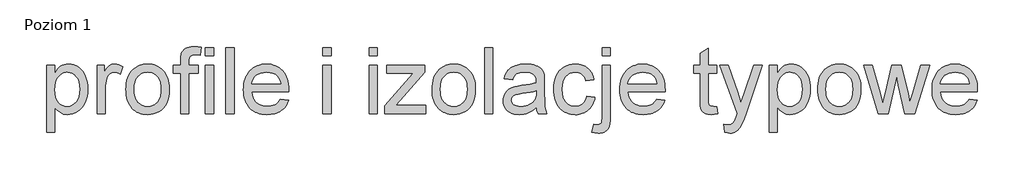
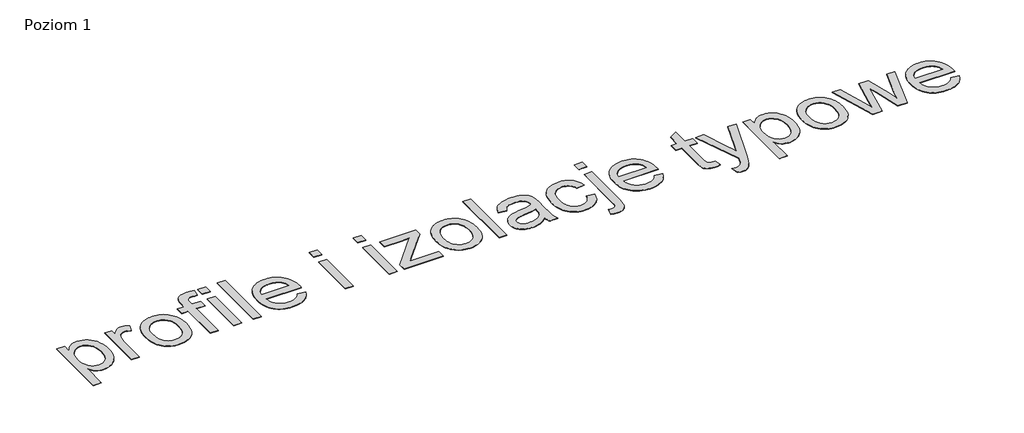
# One storey, part 3 of 4: 1 proxy.
"""IFC4 building model written with IfcOpenShell, lengths in millimetres."""

from ifc_helpers import new_model, si_unit, origin, origin_with_axes, place, context, project, spatial, polyline, outline, extrude, element, save

model = new_model("IFC4")

# Units and contexts
model_context = context("Model", 3, world=origin())
ifc_project = project(units=[si_unit("LENGTHUNIT", "METRE", prefix="MILLI")], contexts=[model_context])

# Site, building, storey
site = spatial("IfcSite", under=ifc_project)
building = spatial("IfcBuilding", under=site)
storey = spatial("IfcBuildingStorey", under=building, Name="Poziom 1", Elevation=0.0)

# Proxy
placement = place(None, origin())
element("IfcBuildingElementProxy", 1, Name="1500 mm Arial", ObjectType="1500 mm Arial", at=placement, inside=storey, context=model_context, shape_type="SweptSolid", body=[
    extrude(outline(polyline([(-77752.6624044, -39191.6927147), (-77752.6624044, -37692.8121176), (-77568.1847925, -37692.8121176), (-77568.1847925, -37873.6866512), (-77538.9998578, -37825.8895649), (-77508.0133839, -37784.4654234), (-77475.2253709, -37749.4142267), (-77440.6358186, -37720.7359749), (-77403.2538807, -37698.430668), (-77362.0887104, -37682.4983058), (-77317.1403079, -37672.9388886), (-77268.4086731, -37669.7524162), (-77204.0712052, -37674.2112256), (-77143.6520849, -37687.587654), (-77087.1513124, -37709.8817014), (-77034.5688876, -37741.0933676), (-76987.0532918, -37780.4119602), (-76945.7530061, -37827.0267865), (-76910.6680306, -37880.9378464), (-76881.7983653, -37942.14514), (-76859.2566063, -38008.554378), (-76843.1553499, -38078.0712711), (-76833.494596, -38150.6958193), (-76830.2743447, -38226.4280225), (-76833.911202, -38307.395949), (-76844.8217736, -38384.1978161), (-76863.0060597, -38456.8336239), (-76888.4640602, -38525.3033723), (-76920.846727, -38587.8167818), (-76959.8050117, -38642.5835729), (-77005.3389145, -38689.6037454), (-77057.4484352, -38728.8772996), (-77113.5776403, -38759.8525138), (-77171.1705959, -38781.9776669), (-77230.2273021, -38795.2527587), (-77290.7477589, -38799.6777893), (-77334.288709, -38796.7165093), (-77375.5552158, -38787.8326692), (-77414.5472794, -38773.0262691), (-77451.2648998, -38752.2973089), (-77485.2576922, -38727.0419815), (-77516.0752717, -38698.6564798), (-77543.7176385, -38667.1408038), (-77568.1847925, -38632.4949535), (-77568.1847925, -39191.6927147), (-77752.6624044, -39191.6927147)]), holes=[polyline([(-77568.1847925, -38243.3624908), (-77563.1967809, -38332.2684493), (-77548.2327461, -38408.7437874), (-77537.00972, -38442.3199739), (-77523.2926881, -38472.7885052), (-77507.0816504, -38500.1493815), (-77488.3766069, -38524.4026027), (-77446.3444459, -38564.1265416), (-77400.0561486, -38592.5007837), (-77349.511715, -38609.5253289), (-77294.7111451, -38615.2001773), (-77239.1224018, -38609.3226558), (-77187.6546794, -38591.6900911), (-77140.3079778, -38562.3024832), (-77097.0822972, -38521.1598322), (-77077.7861236, -38496.0339905), (-77061.0627732, -38467.6766378), (-77046.9122459, -38436.0877743), (-77035.3345418, -38401.2673998), (-77019.897603, -38321.9321182), (-77014.7519567, -38229.670793), (-77019.7737471, -38141.5304887), (-77034.8391185, -38065.190266), (-77046.1381471, -38031.4451852), (-77059.9480708, -38000.6501249), (-77076.2688898, -37972.8050849), (-77095.1006041, -37947.9100654), (-77137.2341016, -37906.9250491), (-77183.2859469, -37877.6500374), (-77233.2561399, -37860.0850304), (-77287.1446806, -37854.2300281), (-77314.4014054, -37855.7866705), (-77340.864327, -37860.4565979), (-77366.5334454, -37868.2398101), (-77391.4087606, -37879.1363072), (-77438.7779813, -37910.2691562), (-77482.9719893, -37953.8551447), (-77502.9437401, -37980.1716912), (-77520.2525907, -38009.3087726), (-77534.8985413, -38041.2663887), (-77546.8815917, -38076.0445395), (-77562.8589923, -38154.0624456), (-77568.1847925, -38243.3624908)])]), origin_with_axes(), (0.0, 0.0, 1.0), 10.0),
    extrude(outline(polyline([(-76622.7370313, -38776.6180878), (-76622.7370313, -37692.8121176), (-76461.3191209, -37692.8121176), (-76461.3191209, -37853.1491046), (-76430.9181472, -37801.8953149), (-76401.688174, -37760.1896829), (-76373.6292013, -37728.0322086), (-76346.7412291, -37705.4228919), (-76319.8082183, -37689.8170588), (-76291.6141302, -37678.6700351), (-76262.1589646, -37671.9818209), (-76231.4427216, -37669.7524162), (-76185.6836265, -37673.310456), (-76139.5642235, -37683.9845757), (-76093.0845126, -37701.7747751), (-76046.244494, -37726.6810542), (-76107.8571339, -37892.0623509), (-76140.2848391, -37875.5107096), (-76172.7125444, -37863.6881088), (-76205.1402496, -37856.5945483), (-76237.5679548, -37854.2300281), (-76265.8408603, -37856.5044713), (-76292.6500152, -37863.3278009), (-76317.9954195, -37874.700017), (-76341.8770733, -37890.6211195), (-76363.3942069, -37910.5731659), (-76381.6460507, -37934.0382137), (-76396.6326047, -37961.0162629), (-76408.353869, -37991.5073135), (-76421.4375473, -38041.8603336), (-76430.7830318, -38094.5553546), (-76436.3903225, -38149.5923765), (-76438.2594194, -38206.9713994), (-76438.2594194, -38776.6180878), (-76622.7370313, -38776.6180878)])), origin_with_axes(), (0.0, 0.0, 1.0), 10.0),
    extrude(outline(polyline([(-75977.0653895, -38234.7151027), (-75974.5713837, -38162.107444), (-75967.0893663, -38094.3526814), (-75954.6193373, -38031.450815), (-75937.1612967, -37973.4018448), (-75914.7152445, -37920.2057707), (-75887.2811807, -37871.8625928), (-75854.8591053, -37828.3723111), (-75817.4490182, -37789.7349255), (-75783.2085142, -37761.6140249), (-75747.1439518, -37737.2425777), (-75709.2553309, -37716.6205839), (-75669.5426516, -37699.7480435), (-75628.0059139, -37686.6249565), (-75584.6451178, -37677.251323), (-75539.4602633, -37671.6271429), (-75492.4513503, -37669.7524162), (-75440.3446445, -37672.0353041), (-75390.6756463, -37678.8839679), (-75343.4443559, -37690.2984075), (-75298.6507731, -37706.278623), (-75256.2948981, -37726.8246144), (-75216.3767308, -37751.9363816), (-75178.8962711, -37781.6139247), (-75143.8535192, -37815.8572436), (-75112.1436147, -37854.1258766), (-75084.6616975, -37895.879362), (-75061.4077676, -37941.1176997), (-75042.3818249, -37989.8408898), (-75027.5838695, -38042.0489322), (-75017.0139014, -38097.741827), (-75010.6719205, -38156.9195741), (-75008.5579268, -38219.5821736), (-75012.2961206, -38318.3290399), (-75023.510702, -38405.9514017), (-75042.201671, -38482.4492591), (-75068.3690276, -38547.8226121), (-75101.6862428, -38604.2896057), (-75141.8267876, -38654.0683851), (-75188.7906621, -38697.1589504), (-75242.5778662, -38733.5613014), (-75301.0941107, -38762.4872649), (-75362.2451062, -38783.1486673), (-75426.0308527, -38795.5455088), (-75492.4513503, -38799.6777893), (-75545.3800084, -38797.4033461), (-75595.7133242, -38790.5800164), (-75643.4512975, -38779.2078004), (-75688.5939285, -38763.2866979), (-75731.141217, -38742.8167089), (-75771.0931632, -38717.7978336), (-75808.4497671, -38688.2300718), (-75843.2110285, -38654.1134236), (-75874.5831444, -38615.7181199), (-75901.7723114, -38573.3143914), (-75924.7785297, -38526.9022383), (-75943.6017993, -38476.4816606), (-75958.24212, -38422.0526581), (-75968.699492, -38363.615231), (-75974.9739151, -38301.1693792), (-75977.0653895, -38234.7151027)]), holes=[polyline([(-75792.5877776, -38234.3547949), (-75787.2507178, -38323.834994), (-75780.579393, -38364.0740605), (-75771.2395383, -38401.3124383), (-75759.2311537, -38435.5501274), (-75744.5542392, -38466.7871279), (-75727.2087948, -38495.0234396), (-75707.1948205, -38520.2590626), (-75661.7509947, -38561.7958003), (-75636.9685714, -38578.1138044), (-75610.8124744, -38591.4648987), (-75583.2827038, -38601.8490831), (-75554.3792596, -38609.2663577), (-75492.4513503, -38615.2001773), (-75430.8387104, -38609.2325788), (-75402.059122, -38601.7730807), (-75374.630688, -38591.3297832), (-75348.5534084, -38577.9026865), (-75323.8272832, -38561.4917906), (-75278.4284959, -38519.7186009), (-75258.4145215, -38494.2831196), (-75241.0690771, -38465.717464), (-75226.3921626, -38434.021634), (-75214.383778, -38399.1956298), (-75205.0439234, -38361.2394512), (-75198.3725986, -38320.1530983), (-75193.0355388, -38228.5898695), (-75198.4063774, -38141.9470946), (-75205.1199258, -38102.8227305), (-75214.5188935, -38066.4963819), (-75226.6032805, -38032.9680488), (-75241.3730869, -38002.2377313), (-75258.8283126, -37974.3054293), (-75278.9689576, -37949.1711428), (-75324.5366392, -37907.6344051), (-75349.2712092, -37891.316401), (-75375.3062652, -37877.9653068), (-75402.6418074, -37867.5811224), (-75431.2778356, -37860.1638478), (-75492.4513503, -37854.2300281), (-75554.3792596, -37860.1413285), (-75583.2827038, -37867.5304541), (-75610.8124744, -37877.8752298), (-75636.9685714, -37891.1756558), (-75661.7509947, -37907.431732), (-75707.1948205, -37948.810835), (-75727.2087948, -37973.9620109), (-75744.5542392, -38002.1251351), (-75759.2311537, -38033.3002076), (-75771.2395383, -38067.4872284), (-75780.579393, -38104.6861976), (-75787.2507178, -38144.897115), (-75792.5877776, -38234.3547949)])]), origin_with_axes(), (0.0, 0.0, 1.0), 10.0),
    extrude(outline(polyline([(-74754.9012104, -38776.6180878), (-74754.9012104, -37877.2897296), (-74916.3191209, -37877.2897296), (-74916.3191209, -37692.8121176), (-74754.9012104, -37692.8121176), (-74754.9012104, -37583.6388434), (-74750.0370546, -37493.2916536), (-74743.9568599, -37458.1841588), (-74735.4445873, -37429.7873975), (-74719.4108886, -37397.517327), (-74698.3328802, -37368.4449884), (-74672.2105621, -37342.570382), (-74641.0439343, -37319.8935076), (-74604.1574196, -37301.4502502), (-74560.8754408, -37288.276495), (-74511.197998, -37280.3722418), (-74455.125091, -37277.7374908), (-74375.0466745, -37282.7818005), (-74286.8613317, -37297.9147296), (-74313.8844194, -37470.8624908), (-74368.5611335, -37464.3769497), (-74420.1752309, -37462.2151027), (-74458.2440057, -37464.1292381), (-74490.3001435, -37469.8716442), (-74516.3436442, -37479.4423211), (-74536.374508, -37492.8412688), (-74551.2709851, -37511.46468), (-74561.9113258, -37536.7087478), (-74568.2955303, -37568.573472), (-74570.4235985, -37607.0588527), (-74570.4235985, -37692.8121176), (-74362.886285, -37692.8121176), (-74362.886285, -37877.2897296), (-74570.4235985, -37877.2897296), (-74570.4235985, -38776.6180878), (-74754.9012104, -38776.6180878)])), origin_with_axes(), (0.0, 0.0, 1.0), 10.0),
    extrude(outline(polyline([(-74201.4683746, -37485.2748042), (-74201.4683746, -37300.7971923), (-74016.9907626, -37300.7971923), (-74016.9907626, -37485.2748042), (-74201.4683746, -37485.2748042)])), origin_with_axes(), (0.0, 0.0, 1.0), 10.0),
    extrude(outline(polyline([(-74201.4683746, -38776.6180878), (-74201.4683746, -37692.8121176), (-74016.9907626, -37692.8121176), (-74016.9907626, -38776.6180878), (-74201.4683746, -38776.6180878)])), origin_with_axes(), (0.0, 0.0, 1.0), 10.0),
    extrude(outline(polyline([(-73740.2743447, -38776.6180878), (-73740.2743447, -37300.7971923), (-73555.7967328, -37300.7971923), (-73555.7967328, -38776.6180878), (-73740.2743447, -38776.6180878)])), origin_with_axes(), (0.0, 0.0, 1.0), 10.0),
    extrude(outline(polyline([(-72520.2720126, -38453.7822669), (-72339.3974791, -38476.8419684), (-72367.1299228, -38549.2863626), (-72384.6358168, -38582.2826787), (-72404.5681589, -38613.1284073), (-72426.926949, -38641.8235485), (-72451.7121873, -38668.3681024), (-72478.9238736, -38692.7620688), (-72508.562008, -38715.0054479), (-72540.4802154, -38734.8505279), (-72574.5321208, -38752.0495972), (-72610.7177242, -38766.6026559), (-72649.0370255, -38778.5097039), (-72732.076722, -38794.385768), (-72823.6512104, -38799.6777893), (-72882.4433156, -38797.3949014), (-72938.116506, -38790.5462376), (-72990.6707817, -38779.1317979), (-73040.1061428, -38763.1515824), (-73086.4225891, -38742.6055911), (-73129.6201207, -38717.4938239), (-73169.6987377, -38687.8162808), (-73206.6584399, -38653.5729619), (-73239.8461695, -38615.2086221), (-73268.6088684, -38573.1680164), (-73292.9465368, -38527.4511448), (-73312.8591745, -38478.0580073), (-73328.3467816, -38424.988604), (-73339.4093581, -38368.2429348), (-73346.0469041, -38307.8209996), (-73348.2594194, -38243.7227986), (-73346.0243848, -38177.4430463), (-73339.3192812, -38114.980305), (-73328.1441085, -38056.3345749), (-73312.4988667, -38001.505856), (-73292.3835558, -37950.4941482), (-73267.7981758, -37903.2994515), (-73238.7427267, -37859.9217659), (-73205.2172085, -37820.3610915), (-73168.1280207, -37785.0621832), (-73128.3815626, -37754.4697961), (-73085.9778341, -37728.58393), (-73040.9168354, -37707.404585), (-72993.1985664, -37690.9317611), (-72942.8230271, -37679.1654584), (-72889.7902175, -37672.1056767), (-72834.1001376, -37669.7524162), (-72780.2313013, -37672.1000469), (-72728.87899, -37679.1429391), (-72680.0432037, -37690.8810928), (-72633.7239425, -37707.314508), (-72589.9212063, -37728.4431847), (-72548.6349951, -37754.2671229), (-72509.865309, -37784.7863226), (-72473.6121479, -37820.0007837), (-72440.8044305, -37859.4713811), (-72412.3710754, -37902.7589897), (-72388.3120827, -37949.8636095), (-72368.6274522, -38000.7852403), (-72353.3171841, -38055.5238823), (-72342.3812783, -38114.0795354), (-72335.8197349, -38176.4521997), (-72333.6325537, -38242.6418751), (-72334.7134772, -38292.3643565), (-73163.7818074, -38292.3643565), (-73153.0964282, -38365.9797512), (-73143.7931673, -38399.3588943), (-73131.8495255, -38430.4523345), (-73117.2655028, -38459.260072), (-73100.0410993, -38485.7821066), (-73080.176315, -38510.0184383), (-73057.6711498, -38531.9690673), (-73007.0816777, -38568.3826779), (-72950.6146841, -38594.3923998), (-72888.2701688, -38609.998233), (-72820.0481321, -38615.2001773), (-72769.0195348, -38612.7906187), (-72721.8642468, -38605.5619427), (-72678.582268, -38593.5141495), (-72639.1735985, -38576.6472389), (-72603.6382382, -38554.5108263), (-72571.9761871, -38526.6545267), (-72544.1874453, -38493.0783402), (-72520.2720126, -38453.7822669)]), holes=[polyline([(-73163.7818074, -38107.8867445), (-72518.1101656, -38107.8867445), (-72527.5907656, -38055.6871468), (-72543.0614833, -38010.4234749), (-72564.5223187, -37972.0957289), (-72591.973272, -37940.7039087), (-72616.260272, -37920.4365929), (-72642.2812536, -37902.8715859), (-72670.0362165, -37888.0088877), (-72699.525161, -37875.8484982), (-72763.7049942, -37859.6346456), (-72834.8207533, -37854.2300281), (-72899.6874234, -37858.5424625), (-72959.1719952, -37871.4797657), (-73013.2744686, -37893.0419378), (-73061.9948438, -37923.2289787), (-73102.8785236, -37960.6446955), (-73133.4709107, -38003.8928954), (-73153.7720054, -38052.9735784), (-73163.7818074, -38107.8867445)])]), origin_with_axes(), (0.0, 0.0, 1.0), 10.0),
    extrude(outline(polyline([(-71572.6624044, -37485.2748042), (-71572.6624044, -37300.7971923), (-71388.1847925, -37300.7971923), (-71388.1847925, -37485.2748042), (-71572.6624044, -37485.2748042)])), origin_with_axes(), (0.0, 0.0, 1.0), 10.0),
    extrude(outline(polyline([(-71572.6624044, -38776.6180878), (-71572.6624044, -37692.8121176), (-71388.1847925, -37692.8121176), (-71388.1847925, -38776.6180878), (-71572.6624044, -38776.6180878)])), origin_with_axes(), (0.0, 0.0, 1.0), 10.0),
    extrude(outline(polyline([(-70534.9758373, -37485.2748042), (-70534.9758373, -37300.7971923), (-70350.4982253, -37300.7971923), (-70350.4982253, -37485.2748042), (-70534.9758373, -37485.2748042)])), origin_with_axes(), (0.0, 0.0, 1.0), 10.0),
    extrude(outline(polyline([(-70534.9758373, -38776.6180878), (-70534.9758373, -37692.8121176), (-70350.4982253, -37692.8121176), (-70350.4982253, -38776.6180878), (-70534.9758373, -38776.6180878)])), origin_with_axes(), (0.0, 0.0, 1.0), 10.0),
    extrude(outline(polyline([(-70189.0803149, -38776.6180878), (-70189.0803149, -38602.9497109), (-69552.416369, -37877.2897296), (-69740.8573671, -37877.2897296), (-70142.9609119, -37877.2897296), (-70142.9609119, -37692.8121176), (-69289.7519567, -37692.8121176), (-69289.7519567, -37849.5460262), (-69854.3543354, -38493.4161288), (-69940.828216, -38592.1404759), (-69727.5259772, -38592.1404759), (-69266.6922552, -38592.1404759), (-69266.6922552, -38776.6180878), (-70189.0803149, -38776.6180878)])), origin_with_axes(), (0.0, 0.0, 1.0), 10.0),
    extrude(outline(polyline([(-69128.3340462, -38234.7151027), (-69125.8400404, -38162.107444), (-69118.358023, -38094.3526814), (-69105.887994, -38031.450815), (-69088.4299534, -37973.4018448), (-69065.9839012, -37920.2057707), (-69038.5498374, -37871.8625928), (-69006.127762, -37828.3723111), (-68968.717675, -37789.7349255), (-68934.4771709, -37761.6140249), (-68898.4126085, -37737.2425777), (-68860.5239876, -37716.6205839), (-68820.8113084, -37699.7480435), (-68779.2745707, -37686.6249565), (-68735.9137745, -37677.251323), (-68690.72892, -37671.6271429), (-68643.7200071, -37669.7524162), (-68591.6133012, -37672.0353041), (-68541.9443031, -37678.8839679), (-68494.7130126, -37690.2984075), (-68449.9194299, -37706.278623), (-68407.5635548, -37726.8246144), (-68367.6453875, -37751.9363816), (-68330.1649278, -37781.6139247), (-68295.1221759, -37815.8572436), (-68263.4122714, -37854.1258766), (-68235.9303542, -37895.879362), (-68212.6764243, -37941.1176997), (-68193.6504816, -37989.8408898), (-68178.8525262, -38042.0489322), (-68168.2825581, -38097.741827), (-68161.9405772, -38156.9195741), (-68159.8265835, -38219.5821736), (-68163.5647773, -38318.3290399), (-68174.7793587, -38405.9514017), (-68193.4703277, -38482.4492591), (-68219.6376843, -38547.8226121), (-68252.9548995, -38604.2896057), (-68293.0954443, -38654.0683851), (-68340.0593188, -38697.1589504), (-68393.8465229, -38733.5613014), (-68452.3627674, -38762.4872649), (-68513.5137629, -38783.1486673), (-68577.2995094, -38795.5455088), (-68643.7200071, -38799.6777893), (-68696.6486652, -38797.4033461), (-68746.9819809, -38790.5800164), (-68794.7199542, -38779.2078004), (-68839.8625852, -38763.2866979), (-68882.4098738, -38742.8167089), (-68922.36182, -38717.7978336), (-68959.7184238, -38688.2300718), (-68994.4796852, -38654.1134236), (-69025.8518011, -38615.7181199), (-69053.0409682, -38573.3143914), (-69076.0471865, -38526.9022383), (-69094.870456, -38476.4816606), (-69109.5107767, -38422.0526581), (-69119.9681487, -38363.615231), (-69126.2425718, -38301.1693792), (-69128.3340462, -38234.7151027)]), holes=[polyline([(-68943.8564343, -38234.3547949), (-68938.5193745, -38323.834994), (-68931.8480497, -38364.0740605), (-68922.508195, -38401.3124383), (-68910.4998104, -38435.5501274), (-68895.8228959, -38466.7871279), (-68878.4774515, -38495.0234396), (-68858.4634772, -38520.2590626), (-68813.0196514, -38561.7958003), (-68788.2372281, -38578.1138044), (-68762.0811311, -38591.4648987), (-68734.5513605, -38601.8490831), (-68705.6479163, -38609.2663577), (-68643.7200071, -38615.2001773), (-68582.1073671, -38609.2325788), (-68553.3277787, -38601.7730807), (-68525.8993447, -38591.3297832), (-68499.8220651, -38577.9026865), (-68475.0959399, -38561.4917906), (-68429.6971526, -38519.7186009), (-68409.6831783, -38494.2831196), (-68392.3377338, -38465.717464), (-68377.6608193, -38434.021634), (-68365.6524348, -38399.1956298), (-68356.3125801, -38361.2394512), (-68349.6412553, -38320.1530983), (-68344.3041955, -38228.5898695), (-68349.6750342, -38141.9470946), (-68356.3885825, -38102.8227305), (-68365.7875502, -38066.4963819), (-68377.8719372, -38032.9680488), (-68392.6417436, -38002.2377313), (-68410.0969693, -37974.3054293), (-68430.2376143, -37949.1711428), (-68475.8052959, -37907.6344051), (-68500.5398659, -37891.316401), (-68526.5749219, -37877.9653068), (-68553.9104641, -37867.5811224), (-68582.5464923, -37860.1638478), (-68643.7200071, -37854.2300281), (-68705.6479163, -37860.1413285), (-68734.5513605, -37867.5304541), (-68762.0811311, -37877.8752298), (-68788.2372281, -37891.1756558), (-68813.0196514, -37907.431732), (-68858.4634772, -37948.810835), (-68878.4774515, -37973.9620109), (-68895.8228959, -38002.1251351), (-68910.4998104, -38033.3002076), (-68922.508195, -38067.4872284), (-68931.8480497, -38104.6861976), (-68938.5193745, -38144.897115), (-68943.8564343, -38234.3547949)])]), origin_with_axes(), (0.0, 0.0, 1.0), 10.0),
    extrude(outline(polyline([(-67952.2892701, -38776.6180878), (-67952.2892701, -37300.7971923), (-67767.8116582, -37300.7971923), (-67767.8116582, -38776.6180878), (-67952.2892701, -38776.6180878)])), origin_with_axes(), (0.0, 0.0, 1.0), 10.0),
    extrude(outline(polyline([(-66799.3041955, -38638.2598788), (-66843.0478187, -38679.3124529), (-66887.4444998, -38713.8344474), (-66932.4942389, -38741.8258624), (-66978.197036, -38763.2866979), (-67025.0708335, -38779.2078004), (-67073.633574, -38790.5800164), (-67123.8852575, -38797.4033461), (-67175.8258839, -38799.6777893), (-67257.9648109, -38794.205614), (-67295.2425973, -38787.365395), (-67329.9925992, -38777.7890883), (-67362.2148163, -38765.4766939), (-67391.9092488, -38750.428212), (-67419.0758967, -38732.6436424), (-67443.7147599, -38712.1229852), (-67465.628795, -38689.4742598), (-67484.6209588, -38665.3054858), (-67500.6912513, -38639.616663), (-67513.8396724, -38612.4077916), (-67524.0662221, -38583.6788715), (-67531.3709005, -38553.4299027), (-67537.2146432, -38488.3718191), (-67535.0077578, -38449.2558997), (-67528.3871013, -38411.896481), (-67517.3526738, -38376.293563), (-67501.9044753, -38342.4471456), (-67482.8644581, -38311.1003639), (-67461.0545745, -38282.9963527), (-67436.4748243, -38258.1351121), (-67409.1252076, -38236.5166419), (-67348.0980679, -38201.3866279), (-67279.9548485, -38175.9849255), (-67213.5681297, -38161.8428429), (-67120.3384772, -38148.2412221), (-67018.8667829, -38134.2792935), (-66931.7173251, -38119.0562874), (-66858.8901038, -38102.5722039), (-66800.385119, -38084.827043), (-66799.3041955, -38043.7519497), (-66802.4794083, -37999.0287396), (-66812.0050467, -37961.4216093), (-66827.8811107, -37930.9305586), (-66850.1076003, -37907.5555878), (-66888.5254233, -37884.2256554), (-66935.3204035, -37867.561418), (-66990.4925409, -37857.5628756), (-67054.0418354, -37854.2300281), (-67113.1323205, -37856.4481732), (-67163.9357253, -37863.1026086), (-67206.45205, -37874.1933341), (-67240.6812944, -37889.7203499), (-67268.8078248, -37910.8996949), (-67293.0160075, -37938.947408), (-67313.3058425, -37973.8634892), (-67329.6773298, -38015.6479385), (-67514.1549418, -37992.5882371), (-67500.1141958, -37939.4428313), (-67482.1325828, -37891.702043), (-67460.210103, -37849.3658723), (-67434.3467561, -37812.4343191), (-67403.42784, -37780.1642486), (-67366.3386521, -37751.8125258), (-67323.0791926, -37727.3791506), (-67273.6494613, -37706.8641232), (-67219.0515646, -37690.6277514), (-67160.2876085, -37679.0303429), (-67097.357593, -37672.0718978), (-67030.2615182, -37669.7524162), (-66964.6742325, -37671.801667), (-66905.5499686, -37677.9494194), (-66852.8887264, -37688.1956735), (-66806.6905061, -37702.5404292), (-66766.5724805, -37719.9815804), (-66732.1518226, -37739.5170209), (-66703.4285323, -37761.1467506), (-66680.4026097, -37784.8707697), (-66661.7341599, -37811.2745783), (-66646.0832883, -37840.9436766), (-66633.4499948, -37873.8780648), (-66623.8342794, -37910.0777426), (-66617.0785075, -37973.8522296), (-66614.8265835, -38071.4956531), (-66614.8265835, -38301.0117445), (-66612.4845826, -38500.9375549), (-66605.4585798, -38621.5055645), (-66591.5867281, -38700.7282499), (-66568.7071806, -38776.6180878), (-66753.1847925, -38776.6180878), (-66769.578799, -38745.8117678), (-66782.730035, -38712.483293), (-66792.6385005, -38676.6326634), (-66799.3041955, -38638.2598788)]), holes=[polyline([(-66799.3041955, -38269.304655), (-66855.0618331, -38285.2707959), (-66923.250091, -38300.020898), (-67096.9184679, -38325.8729852), (-67192.6252368, -38340.0150677), (-67255.6340696, -38355.7785356), (-67296.9343552, -38376.2260052), (-67313.5648138, -38389.354722), (-67327.5154828, -38404.4200934), (-67346.4316442, -38438.198953), (-67351.1606845, -38456.3719795), (-67352.7370313, -38475.4007371), (-67349.3028472, -38504.0677292), (-67339.0002951, -38530.2576051), (-67321.8293748, -38553.9703645), (-67297.7900863, -38575.2060076), (-67267.1076222, -38592.7034568), (-67230.0071747, -38605.2016349), (-67186.4887439, -38612.7005417), (-67136.5523298, -38615.2001773), (-67085.568771, -38612.4415705), (-67037.467675, -38604.1657499), (-66992.2490416, -38590.3727155), (-66949.9128709, -38571.0624675), (-66911.7202403, -38547.8338717), (-66878.9322272, -38522.2857942), (-66851.5488317, -38494.418235), (-66829.5700537, -38464.2311941), (-66816.8016448, -38437.2081065), (-66807.6813527, -38404.4200934), (-66802.2091774, -38365.867155), (-66800.385119, -38321.5492912), (-66799.3041955, -38269.304655)])]), origin_with_axes(), (0.0, 0.0, 1.0), 10.0),
    extrude(outline(polyline([(-65669.3788224, -38384.6031624), (-65484.9012104, -38407.6628639), (-65493.5204494, -38452.4395572), (-65504.965853, -38494.7109851), (-65519.2374212, -38534.4771476), (-65536.335154, -38571.7380447), (-65556.2590513, -38606.4936763), (-65579.0091133, -38638.7440425), (-65604.5853398, -38668.4891433), (-65632.9877309, -38695.7289787), (-65663.6476758, -38720.0919811), (-65695.9965637, -38741.2065833), (-65730.0343946, -38759.0727851), (-65765.7611684, -38773.6905866), (-65803.1768853, -38785.0599878), (-65842.2815451, -38793.1809886), (-65883.0751479, -38798.0535891), (-65925.5576936, -38799.6777893), (-65978.627097, -38797.4117908), (-66029.0223406, -38790.6137953), (-66076.7434245, -38779.2838028), (-66121.7903487, -38763.4218133), (-66164.1631132, -38743.0278268), (-66203.8617179, -38718.1018433), (-66240.886163, -38688.6438629), (-66275.2364483, -38654.6538854), (-66306.1863284, -38616.4302908), (-66333.0095578, -38574.2714591), (-66355.7061366, -38528.1773903), (-66374.2760647, -38478.1480843), (-66388.719342, -38424.1835412), (-66399.0359687, -38366.2837609), (-66405.2259448, -38304.4487435), (-66407.2892701, -38238.6784889), (-66403.7650091, -38153.8597724), (-66393.192226, -38074.5132312), (-66375.5709209, -38000.6388653), (-66350.9010938, -37932.2366746), (-66319.0138503, -37870.6803327), (-66279.7402962, -37817.3435134), (-66233.0804315, -37772.2262166), (-66179.0342561, -37735.3284423), (-66120.0451076, -37706.6389308), (-66058.5563235, -37686.1464227), (-65994.5679038, -37673.8509178), (-65928.0798485, -37669.7524162), (-65846.2336716, -37675.3822261), (-65808.2408993, -37682.4194885), (-65772.201671, -37692.2716559), (-65738.1159867, -37704.9387282), (-65705.9838465, -37720.4207056), (-65675.8052504, -37738.7175879), (-65647.5801983, -37759.8293751), (-65621.5564019, -37783.5308749), (-65597.9815728, -37809.5968949), (-65576.855711, -37838.0274351), (-65558.1788165, -37868.8224954), (-65541.9508894, -37901.982076), (-65528.1719296, -37937.5061766), (-65507.9609119, -38015.6479385), (-65692.4385238, -38038.70764), (-65706.8395777, -37995.6170748), (-65725.9021141, -37958.2238772), (-65749.6261332, -37926.5280473), (-65778.0116349, -37900.529585), (-65810.3380035, -37880.2735289), (-65845.8846234, -37865.8049173), (-65884.6514946, -37857.1237504), (-65926.6386171, -37854.2300281), (-65989.3209209, -37859.9273957), (-66045.8554723, -37877.0194987), (-66071.8173408, -37889.8385759), (-66096.2422712, -37905.506337), (-66140.4813177, -37945.3879106), (-66159.7774912, -37969.8325453), (-66176.5008416, -37997.5875083), (-66190.6513689, -38028.6527995), (-66202.2290731, -38063.028419), (-66217.6660119, -38141.7106426), (-66222.8116582, -38233.6341792), (-66217.7786081, -38326.9426491), (-66202.6794578, -38406.5369019), (-66191.3550952, -38441.191197), (-66177.5142074, -38472.4169378), (-66161.1567947, -38500.2141243), (-66142.2828569, -38524.5827566), (-66098.9220607, -38564.2278782), (-66074.9193661, -38579.8027474), (-66049.3684737, -38592.5458222), (-65993.6220957, -38609.5365886), (-65931.6829268, -38615.2001773), (-65881.7690319, -38611.6646567), (-65836.1563119, -38601.0580948), (-65794.8447666, -38583.3804916), (-65757.834396, -38558.6318471), (-65726.1610854, -38526.5419305), (-65700.8607195, -38486.8405108), (-65681.9332985, -38439.5275881), (-65669.3788224, -38384.6031624)])), origin_with_axes(), (0.0, 0.0, 1.0), 10.0),
    extrude(outline(polyline([(-65323.4833, -37485.2748042), (-65323.4833, -37300.7971923), (-65139.005688, -37300.7971923), (-65139.005688, -37485.2748042), (-65323.4833, -37485.2748042)])), origin_with_axes(), (0.0, 0.0, 1.0), 10.0),
    extrude(outline(polyline([(-65555.8818541, -39192.4133303), (-65516.9686078, -39016.9434143), (-65468.9575887, -39026.9419567), (-65432.2962664, -39030.2748042), (-65406.5004773, -39027.9891014), (-65384.2402088, -39021.1319929), (-65365.5154609, -39009.7034787), (-65350.3262337, -38993.7035589), (-65338.5824502, -38968.5608277), (-65330.1940334, -38929.7038795), (-65325.1609833, -38877.1327144), (-65323.4833, -38810.8473322), (-65323.4833, -37692.8121176), (-65139.005688, -37692.8121176), (-65139.005688, -38834.6276494), (-65142.2709778, -38926.8664553), (-65152.0668471, -39003.9723322), (-65168.3932959, -39065.94528), (-65191.2503242, -39112.7852986), (-65209.1981583, -39136.6838418), (-65229.8933396, -39157.3959125), (-65253.3358682, -39174.9215109), (-65279.525744, -39189.2606368), (-65308.4629671, -39200.4132903), (-65340.1475374, -39208.3794713), (-65374.5794549, -39213.1591799), (-65411.7587197, -39214.7524162), (-65485.0813643, -39209.1676447), (-65555.8818541, -39192.4133303)])), origin_with_axes(), (0.0, 0.0, 1.0), 10.0),
    extrude(outline(polyline([(-64103.4809679, -38453.7822669), (-63922.6064343, -38476.8419684), (-63950.338878, -38549.2863626), (-63967.844772, -38582.2826787), (-63987.7771141, -38613.1284073), (-64010.1359043, -38641.8235485), (-64034.9211425, -38668.3681024), (-64062.1328288, -38692.7620688), (-64091.7709632, -38715.0054479), (-64123.6891706, -38734.8505279), (-64157.741076, -38752.0495972), (-64193.9266794, -38766.6026559), (-64232.2459807, -38778.5097039), (-64315.2856772, -38794.385768), (-64406.8601656, -38799.6777893), (-64465.6522708, -38797.3949014), (-64521.3254612, -38790.5462376), (-64573.879737, -38779.1317979), (-64623.315098, -38763.1515824), (-64669.6315443, -38742.6055911), (-64712.829076, -38717.4938239), (-64752.9076929, -38687.8162808), (-64789.8673951, -38653.5729619), (-64823.0551247, -38615.2086221), (-64851.8178236, -38573.1680164), (-64876.155492, -38527.4511448), (-64896.0681297, -38478.0580073), (-64911.5557369, -38424.988604), (-64922.6183134, -38368.2429348), (-64929.2558593, -38307.8209996), (-64931.4683746, -38243.7227986), (-64929.23334, -38177.4430463), (-64922.5282364, -38114.980305), (-64911.3530637, -38056.3345749), (-64895.7078219, -38001.505856), (-64875.592511, -37950.4941482), (-64851.007131, -37903.2994515), (-64821.9516819, -37859.9217659), (-64788.4261638, -37820.3610915), (-64751.3369759, -37785.0621832), (-64711.5905178, -37754.4697961), (-64669.1867894, -37728.58393), (-64624.1257906, -37707.404585), (-64576.4075216, -37690.9317611), (-64526.0319823, -37679.1654584), (-64472.9991727, -37672.1056767), (-64417.3090929, -37669.7524162), (-64363.4402565, -37672.1000469), (-64312.0879452, -37679.1429391), (-64263.2521589, -37690.8810928), (-64216.9328977, -37707.314508), (-64173.1301615, -37728.4431847), (-64131.8439503, -37754.2671229), (-64093.0742642, -37784.7863226), (-64056.8211031, -37820.0007837), (-64024.0133857, -37859.4713811), (-63995.5800307, -37902.7589897), (-63971.5210379, -37949.8636095), (-63951.8364075, -38000.7852403), (-63936.5261394, -38055.5238823), (-63925.5902336, -38114.0795354), (-63919.0286901, -38176.4521997), (-63916.8415089, -38242.6418751), (-63917.9224324, -38292.3643565), (-64746.9907626, -38292.3643565), (-64736.3053834, -38365.9797512), (-64727.0021225, -38399.3588943), (-64715.0584807, -38430.4523345), (-64700.4744581, -38459.260072), (-64683.2500546, -38485.7821066), (-64663.3852702, -38510.0184383), (-64640.880105, -38531.9690673), (-64590.2906329, -38568.3826779), (-64533.8236393, -38594.3923998), (-64471.4791241, -38609.998233), (-64403.2570873, -38615.2001773), (-64352.22849, -38612.7906187), (-64305.073202, -38605.5619427), (-64261.7912232, -38593.5141495), (-64222.3825537, -38576.6472389), (-64186.8471934, -38554.5108263), (-64155.1851423, -38526.6545267), (-64127.3964005, -38493.0783402), (-64103.4809679, -38453.7822669)]), holes=[polyline([(-64746.9907626, -38107.8867445), (-64101.3191209, -38107.8867445), (-64110.7997208, -38055.6871468), (-64126.2704385, -38010.4234749), (-64147.731274, -37972.0957289), (-64175.1822272, -37940.7039087), (-64199.4692273, -37920.4365929), (-64225.4902088, -37902.8715859), (-64253.2451718, -37888.0088877), (-64282.7341162, -37875.8484982), (-64346.9139495, -37859.6346456), (-64418.0297085, -37854.2300281), (-64482.8963786, -37858.5424625), (-64542.3809504, -37871.4797657), (-64596.4834239, -37893.0419378), (-64645.203799, -37923.2289787), (-64686.0874788, -37960.6446955), (-64716.679866, -38003.8928954), (-64736.9809606, -38052.9735784), (-64746.9907626, -38107.8867445)])]), origin_with_axes(), (0.0, 0.0, 1.0), 10.0),
    extrude(outline(polyline([(-62763.8564343, -38622.7666419), (-62740.7967328, -38782.0227053), (-62813.8491465, -38795.2640183), (-62878.7946339, -38799.6777893), (-62925.8823642, -38797.7636539), (-62967.3402846, -38792.0212478), (-63003.168395, -38782.4505709), (-63033.3666955, -38769.0516232), (-63058.7233594, -38752.5450205), (-63080.0265602, -38733.6513784), (-63097.2762979, -38712.3706968), (-63110.4725724, -38688.7029759), (-63120.2459224, -38656.9733671), (-63127.2268867, -38611.507022), (-63131.4154653, -38552.3039408), (-63132.8116582, -38479.3641232), (-63132.8116582, -37877.2897296), (-63271.1698671, -37877.2897296), (-63271.1698671, -37692.8121176), (-63132.8116582, -37692.8121176), (-63132.8116582, -37429.4270897), (-62948.3340462, -37320.9744311), (-62948.3340462, -37692.8121176), (-62763.8564343, -37692.8121176), (-62763.8564343, -37877.2897296), (-62948.3340462, -37877.2897296), (-62948.3340462, -38473.9595057), (-62945.9019683, -38534.671376), (-62938.6057347, -38569.0807744), (-62925.859845, -38588.1320512), (-62907.078799, -38602.769557), (-62880.4610577, -38612.0925223), (-62844.2050817, -38615.2001773), (-62763.8564343, -38622.7666419)])), origin_with_axes(), (0.0, 0.0, 1.0), 10.0),
    extrude(outline(polyline([(-62579.3788224, -39191.6927147), (-62602.4385238, -39014.0609516), (-62552.1755807, -39026.2213411), (-62508.7584865, -39030.2748042), (-62459.48639, -39025.185456), (-62438.9713626, -39018.8237708), (-62421.2036824, -39009.9174115), (-62391.388209, -38985.5515941), (-62367.5178149, -38953.1689273), (-62347.1604222, -38905.5182161), (-62317.0747179, -38817.3328732), (-62302.6624044, -38772.6547016), (-62694.6773298, -37692.8121176), (-62500.1110985, -37692.8121176), (-62292.2134772, -38294.5262035), (-62253.9307696, -38411.9865579), (-62219.7916022, -38535.2118378), (-62147.3697272, -38322.6302147), (-61933.7071806, -37692.8121176), (-61740.5821806, -37692.8121176), (-62117.8244847, -38802.560252), (-62173.8523531, -38950.1063107), (-62215.828216, -39043.2458863), (-62240.0814372, -39084.6137297), (-62266.0010821, -39120.0815323), (-62293.5871508, -39149.6492941), (-62322.8396432, -39173.317015), (-62354.3890981, -39191.445003), (-62388.8660542, -39204.3935659), (-62426.2705114, -39212.1627036), (-62466.6024697, -39214.7524162), (-62520.0181064, -39208.9874908), (-62579.3788224, -39191.6927147)])), origin_with_axes(), (0.0, 0.0, 1.0), 10.0),
    extrude(outline(polyline([(-61587.8116582, -39191.6927147), (-61587.8116582, -37692.8121176), (-61403.3340462, -37692.8121176), (-61403.3340462, -37873.6866512), (-61374.1491115, -37825.8895649), (-61343.1626376, -37784.4654234), (-61310.3746246, -37749.4142267), (-61275.7850724, -37720.7359749), (-61238.4031344, -37698.430668), (-61197.2379641, -37682.4983058), (-61152.2895616, -37672.9388886), (-61103.5579268, -37669.7524162), (-61039.2204589, -37674.2112256), (-60978.8013387, -37687.587654), (-60922.3005662, -37709.8817014), (-60869.7181414, -37741.0933676), (-60822.2025455, -37780.4119602), (-60780.9022599, -37827.0267865), (-60745.8172843, -37880.9378464), (-60716.947619, -37942.14514), (-60694.40586, -38008.554378), (-60678.3046036, -38078.0712711), (-60668.6438498, -38150.6958193), (-60665.4235985, -38226.4280225), (-60669.0604557, -38307.395949), (-60679.9710273, -38384.1978161), (-60698.1553134, -38456.8336239), (-60723.613314, -38525.3033723), (-60755.9959807, -38587.8167818), (-60794.9542654, -38642.5835729), (-60840.4881682, -38689.6037454), (-60892.597689, -38728.8772996), (-60948.726894, -38759.8525138), (-61006.3198496, -38781.9776669), (-61065.3765559, -38795.2527587), (-61125.8970126, -38799.6777893), (-61169.4379627, -38796.7165093), (-61210.7044695, -38787.8326692), (-61249.6965331, -38773.0262691), (-61286.4141535, -38752.2973089), (-61320.4069459, -38727.0419815), (-61351.2245255, -38698.6564798), (-61378.8668923, -38667.1408038), (-61403.3340462, -38632.4949535), (-61403.3340462, -39191.6927147), (-61587.8116582, -39191.6927147)]), holes=[polyline([(-61403.3340462, -38243.3624908), (-61398.3460346, -38332.2684493), (-61383.3819998, -38408.7437874), (-61372.1589737, -38442.3199739), (-61358.4419418, -38472.7885052), (-61342.2309041, -38500.1493815), (-61323.5258606, -38524.4026027), (-61281.4936996, -38564.1265416), (-61235.2054023, -38592.5007837), (-61184.6609687, -38609.5253289), (-61129.8603988, -38615.2001773), (-61074.2716555, -38609.3226558), (-61022.8039331, -38591.6900911), (-60975.4572316, -38562.3024832), (-60932.2315509, -38521.1598322), (-60912.9353773, -38496.0339905), (-60896.2120269, -38467.6766378), (-60882.0614997, -38436.0877743), (-60870.4837955, -38401.2673998), (-60855.0468567, -38321.9321182), (-60849.9012104, -38229.670793), (-60854.9230009, -38141.5304887), (-60869.9883723, -38065.190266), (-60881.2874008, -38031.4451852), (-60895.0973246, -38000.6501249), (-60911.4181436, -37972.8050849), (-60930.2498578, -37947.9100654), (-60972.3833554, -37906.9250491), (-61018.4352006, -37877.6500374), (-61068.4053936, -37860.0850304), (-61122.2939343, -37854.2300281), (-61149.5506591, -37855.7866705), (-61176.0135807, -37860.4565979), (-61201.6826991, -37868.2398101), (-61226.5580143, -37879.1363072), (-61273.9272351, -37910.2691562), (-61318.1212431, -37953.8551447), (-61338.0929938, -37980.1716912), (-61355.4018444, -38009.3087726), (-61370.047795, -38041.2663887), (-61382.0308454, -38076.0445395), (-61398.008246, -38154.0624456), (-61403.3340462, -38243.3624908)])]), origin_with_axes(), (0.0, 0.0, 1.0), 10.0),
    extrude(outline(polyline([(-60504.005688, -38234.7151027), (-60501.5116822, -38162.107444), (-60494.0296648, -38094.3526814), (-60481.5596358, -38031.450815), (-60464.1015952, -37973.4018448), (-60441.655543, -37920.2057707), (-60414.2214792, -37871.8625928), (-60381.7994038, -37828.3723111), (-60344.3893168, -37789.7349255), (-60310.1488127, -37761.6140249), (-60274.0842503, -37737.2425777), (-60236.1956294, -37716.6205839), (-60196.4829501, -37699.7480435), (-60154.9462125, -37686.6249565), (-60111.5854163, -37677.251323), (-60066.4005618, -37671.6271429), (-60019.3916488, -37669.7524162), (-59967.284943, -37672.0353041), (-59917.6159448, -37678.8839679), (-59870.3846544, -37690.2984075), (-59825.5910717, -37706.278623), (-59783.2351966, -37726.8246144), (-59743.3170293, -37751.9363816), (-59705.8365696, -37781.6139247), (-59670.7938177, -37815.8572436), (-59639.0839132, -37854.1258766), (-59611.601996, -37895.879362), (-59588.3480661, -37941.1176997), (-59569.3221234, -37989.8408898), (-59554.524168, -38042.0489322), (-59543.9541999, -38097.741827), (-59537.612219, -38156.9195741), (-59535.4982253, -38219.5821736), (-59539.2364191, -38318.3290399), (-59550.4510005, -38405.9514017), (-59569.1419695, -38482.4492591), (-59595.3093261, -38547.8226121), (-59628.6265413, -38604.2896057), (-59668.7670861, -38654.0683851), (-59715.7309606, -38697.1589504), (-59769.5181647, -38733.5613014), (-59828.0344092, -38762.4872649), (-59889.1854047, -38783.1486673), (-59952.9711512, -38795.5455088), (-60019.3916488, -38799.6777893), (-60072.3203069, -38797.4033461), (-60122.6536227, -38790.5800164), (-60170.391596, -38779.2078004), (-60215.534227, -38763.2866979), (-60258.0815156, -38742.8167089), (-60298.0334618, -38717.7978336), (-60335.3900656, -38688.2300718), (-60370.151327, -38654.1134236), (-60401.5234429, -38615.7181199), (-60428.71261, -38573.3143914), (-60451.7188283, -38526.9022383), (-60470.5420978, -38476.4816606), (-60485.1824185, -38422.0526581), (-60495.6397905, -38363.615231), (-60501.9142136, -38301.1693792), (-60504.005688, -38234.7151027)]), holes=[polyline([(-60319.5280761, -38234.3547949), (-60314.1910163, -38323.834994), (-60307.5196915, -38364.0740605), (-60298.1798368, -38401.3124383), (-60286.1714522, -38435.5501274), (-60271.4945377, -38466.7871279), (-60254.1490933, -38495.0234396), (-60234.135119, -38520.2590626), (-60188.6912932, -38561.7958003), (-60163.9088699, -38578.1138044), (-60137.7527729, -38591.4648987), (-60110.2230023, -38601.8490831), (-60081.3195581, -38609.2663577), (-60019.3916488, -38615.2001773), (-59957.7790089, -38609.2325788), (-59928.9994205, -38601.7730807), (-59901.5709865, -38591.3297832), (-59875.4937069, -38577.9026865), (-59850.7675817, -38561.4917906), (-59805.3687944, -38519.7186009), (-59785.35482, -38494.2831196), (-59768.0093756, -38465.717464), (-59753.3324611, -38434.021634), (-59741.3240765, -38399.1956298), (-59731.9842219, -38361.2394512), (-59725.3128971, -38320.1530983), (-59719.9758373, -38228.5898695), (-59725.346676, -38141.9470946), (-59732.0602243, -38102.8227305), (-59741.459192, -38066.4963819), (-59753.543579, -38032.9680488), (-59768.3133854, -38002.2377313), (-59785.7686111, -37974.3054293), (-59805.9092561, -37949.1711428), (-59851.4769377, -37907.6344051), (-59876.2115077, -37891.316401), (-59902.2465637, -37877.9653068), (-59929.5821059, -37867.5811224), (-59958.2181341, -37860.1638478), (-60019.3916488, -37854.2300281), (-60081.3195581, -37860.1413285), (-60110.2230023, -37867.5304541), (-60137.7527729, -37877.8752298), (-60163.9088699, -37891.1756558), (-60188.6912932, -37907.431732), (-60234.135119, -37948.810835), (-60254.1490933, -37973.9620109), (-60271.4945377, -38002.1251351), (-60286.1714522, -38033.3002076), (-60298.1798368, -38067.4872284), (-60307.5196915, -38104.6861976), (-60314.1910163, -38144.897115), (-60319.5280761, -38234.3547949)])]), origin_with_axes(), (0.0, 0.0, 1.0), 10.0),
    extrude(outline(polyline([(-59148.1673018, -38776.6180878), (-59477.8489716, -37692.8121176), (-59286.1652029, -37692.8121176), (-59099.1654362, -38325.1523695), (-59043.3177216, -38551.0653826), (-58997.5586265, -38333.4394497), (-58848.7514903, -37692.8121176), (-58628.9637104, -37692.8121176), (-58480.8771899, -38331.6379106), (-58440.1624044, -38528.7262968), (-58381.792535, -38320.8286755), (-58194.4324604, -37692.8121176), (-58002.0280761, -37692.8121176), (-58334.2319007, -38776.6180878), (-58557.2624511, -38776.6180878), (-58698.8634306, -38141.0350654), (-58739.9385238, -37942.8657557), (-58922.6145966, -38776.6180878), (-59148.1673018, -38776.6180878)])), origin_with_axes(), (0.0, 0.0, 1.0), 10.0),
    extrude(outline(polyline([(-57116.3914156, -38453.7822669), (-56935.5168821, -38476.8419684), (-56963.2493258, -38549.2863626), (-56980.7552198, -38582.2826787), (-57000.6875619, -38613.1284073), (-57023.046352, -38641.8235485), (-57047.8315903, -38668.3681024), (-57075.0432766, -38692.7620688), (-57104.681411, -38715.0054479), (-57136.5996184, -38734.8505279), (-57170.6515238, -38752.0495972), (-57206.8371271, -38766.6026559), (-57245.1564285, -38778.5097039), (-57328.196125, -38794.385768), (-57419.7706134, -38799.6777893), (-57478.5627185, -38797.3949014), (-57534.235909, -38790.5462376), (-57586.7901847, -38779.1317979), (-57636.2255458, -38763.1515824), (-57682.5419921, -38742.6055911), (-57725.7395237, -38717.4938239), (-57765.8181407, -38687.8162808), (-57802.7778429, -38653.5729619), (-57835.9655724, -38615.2086221), (-57864.7282714, -38573.1680164), (-57889.0659397, -38527.4511448), (-57908.9785775, -38478.0580073), (-57924.4661846, -38424.988604), (-57935.5287611, -38368.2429348), (-57942.166307, -38307.8209996), (-57944.3788224, -38243.7227986), (-57942.1437878, -38177.4430463), (-57935.4386842, -38114.980305), (-57924.2635115, -38056.3345749), (-57908.6182696, -38001.505856), (-57888.5029587, -37950.4941482), (-57863.9175788, -37903.2994515), (-57834.8621297, -37859.9217659), (-57801.3366115, -37820.3610915), (-57764.2474237, -37785.0621832), (-57724.5009655, -37754.4697961), (-57682.0972371, -37728.58393), (-57637.0362384, -37707.404585), (-57589.3179694, -37690.9317611), (-57538.9424301, -37679.1654584), (-57485.9096205, -37672.1056767), (-57430.2195406, -37669.7524162), (-57376.3507043, -37672.1000469), (-57324.998393, -37679.1429391), (-57276.1626067, -37690.8810928), (-57229.8433454, -37707.314508), (-57186.0406092, -37728.4431847), (-57144.7543981, -37754.2671229), (-57105.984712, -37784.7863226), (-57069.7315509, -37820.0007837), (-57036.9238335, -37859.4713811), (-57008.4904784, -37902.7589897), (-56984.4314857, -37949.8636095), (-56964.7468552, -38000.7852403), (-56949.4365871, -38055.5238823), (-56938.5006813, -38114.0795354), (-56931.9391378, -38176.4521997), (-56929.7519567, -38242.6418751), (-56930.8328802, -38292.3643565), (-57759.9012104, -38292.3643565), (-57749.2158312, -38365.9797512), (-57739.9125702, -38399.3588943), (-57727.9689285, -38430.4523345), (-57713.3849058, -38459.260072), (-57696.1605023, -38485.7821066), (-57676.295718, -38510.0184383), (-57653.7905528, -38531.9690673), (-57603.2010807, -38568.3826779), (-57546.734087, -38594.3923998), (-57484.3895718, -38609.998233), (-57416.167535, -38615.2001773), (-57365.1389378, -38612.7906187), (-57317.9836498, -38605.5619427), (-57274.701671, -38593.5141495), (-57235.2930015, -38576.6472389), (-57199.7576411, -38554.5108263), (-57168.0955901, -38526.6545267), (-57140.3068482, -38493.0783402), (-57116.3914156, -38453.7822669)]), holes=[polyline([(-57759.9012104, -38107.8867445), (-57114.2295686, -38107.8867445), (-57123.7101686, -38055.6871468), (-57139.1808863, -38010.4234749), (-57160.6417217, -37972.0957289), (-57188.092675, -37940.7039087), (-57212.379675, -37920.4365929), (-57238.4006565, -37902.8715859), (-57266.1556195, -37888.0088877), (-57295.644564, -37875.8484982), (-57359.8243972, -37859.6346456), (-57430.9401563, -37854.2300281), (-57495.8068264, -37858.5424625), (-57555.2913981, -37871.4797657), (-57609.3938716, -37893.0419378), (-57658.1142468, -37923.2289787), (-57698.9979265, -37960.6446955), (-57729.5903137, -38003.8928954), (-57749.8914083, -38052.9735784), (-57759.9012104, -38107.8867445)])]), origin_with_axes(), (0.0, 0.0, 1.0), 10.0),
])

save(model, "model.ifc")
